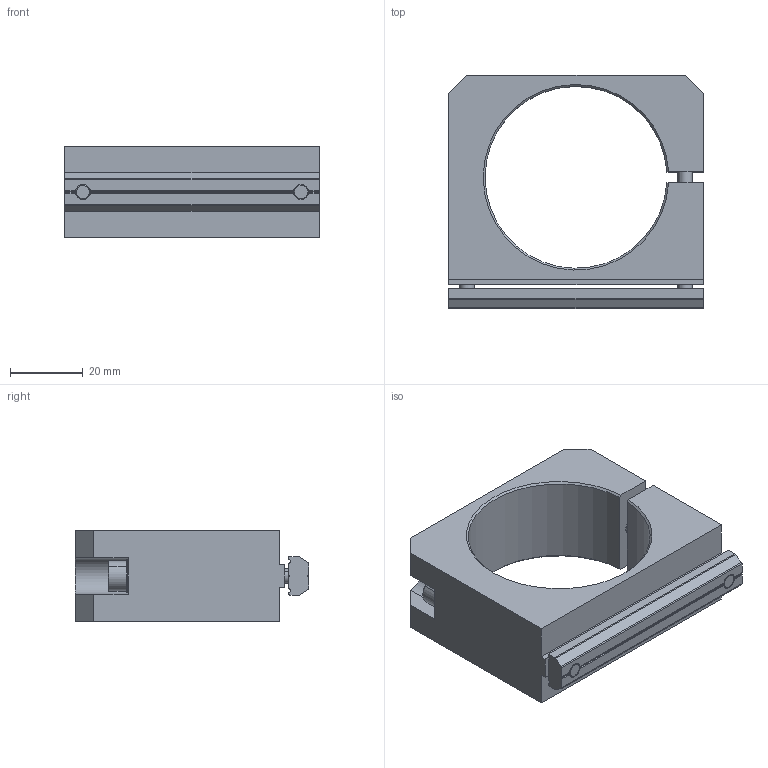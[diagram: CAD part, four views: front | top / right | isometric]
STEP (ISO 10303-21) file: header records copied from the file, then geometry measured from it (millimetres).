
FILE_DESCRIPTION (( 'STEP AP214' ), '1' );
FILE_NAME ('SMBC-5070T.STEP', '2022-12-09T00:43:30', ( '' ), ( '' ), 'SwSTEP 2.0', 'SolidWorks 2018', '' );
FILE_SCHEMA (( 'AUTOMOTIVE_DESIGN' ));
Length unit declared in the file: millimetre
Products named in the file (5): SMBC-5070; PTS-M5; SMBC-5070T; PTN-M5P60; PTC-M5L50
Assembly tree (6 placements, depth 2):
  SMBC-5070T
    SMBC-5070
    PTN-M5P60
    PTS-M5  x2
    PTC-M5L50  x2
Bounding box: 70 x 64.05 x 25 mm (x, y, z)
Volume: 49227.9 mm3; surface area: 20474.5 mm2
Topology: 6 solids, 6 shells, 468 faces, 1360 edges, 900 vertices
Faces by surface type: plane 391, cylinder 58, cone 19
Entity records: 9726 total; most frequent: CARTESIAN_POINT 1821, ORIENTED_EDGE 1652, DIRECTION 1610, EDGE_CURVE 826, VERTEX_POINT 546, AXIS2_PLACEMENT_3D 543, LINE 524, VECTOR 524
